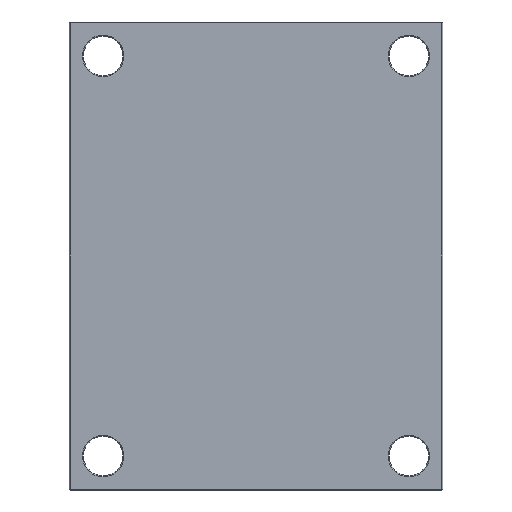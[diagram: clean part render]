
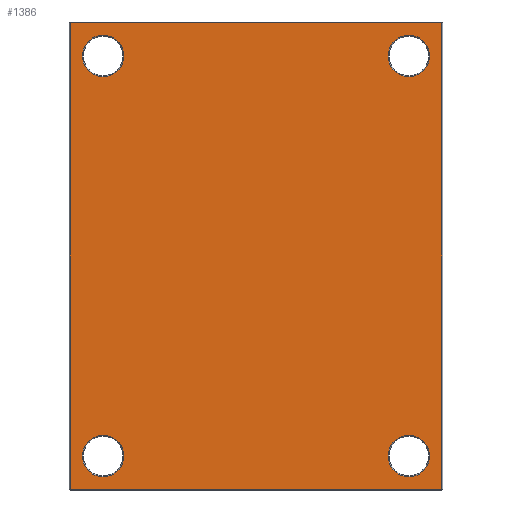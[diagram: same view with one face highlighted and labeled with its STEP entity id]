
A CAD part, front view. The second image highlights one B-rep face of the part: STEP entity #1386.
In plain terms, the highlighted planar face has unit normal (0, -1, 0).
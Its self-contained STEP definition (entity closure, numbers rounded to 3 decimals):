
#10 = CIRCLE ( 'NONE', #2101, 22. ) ;
#31 = DIRECTION ( 'NONE',  ( -1., 0., 0. ) ) ;
#37 = LINE ( 'NONE', #362, #308 ) ;
#40 = VECTOR ( 'NONE', #2070, 1000. ) ;
#47 = EDGE_LOOP ( 'NONE', ( #920, #1014 ) ) ;
#61 = EDGE_LOOP ( 'NONE', ( #1020, #1037 ) ) ;
#65 = EDGE_CURVE ( 'NONE', #1095, #1932, #1212, .T. ) ;
#73 = DIRECTION ( 'NONE',  ( 0., 1., 0. ) ) ;
#80 = CARTESIAN_POINT ( 'NONE',  ( -162., 0., 212. ) ) ;
#112 = EDGE_CURVE ( 'NONE', #125, #1172, #990, .T. ) ;
#116 = CIRCLE ( 'NONE', #2072, 22. ) ;
#125 = VERTEX_POINT ( 'NONE', #630 ) ;
#134 = CARTESIAN_POINT ( 'NONE',  ( 162., 0., -190. ) ) ;
#135 = CARTESIAN_POINT ( 'NONE',  ( -162., 0., -212. ) ) ;
#145 = DIRECTION ( 'NONE',  ( 0., 1., 0. ) ) ;
#151 = DIRECTION ( 'NONE',  ( 0., 0., 1. ) ) ;
#169 = LINE ( 'NONE', #2140, #256 ) ;
#194 = LINE ( 'NONE', #573, #221 ) ;
#200 = EDGE_CURVE ( 'NONE', #1406, #1710, #807, .T. ) ;
#221 = VECTOR ( 'NONE', #621, 1000. ) ;
#229 = CIRCLE ( 'NONE', #244, 22. ) ;
#244 = AXIS2_PLACEMENT_3D ( 'NONE', #2003, #2011, #2019 ) ;
#256 = VECTOR ( 'NONE', #31, 1000. ) ;
#289 = EDGE_CURVE ( 'NONE', #2172, #1986, #402, .T. ) ;
#308 = VECTOR ( 'NONE', #506, 1000. ) ;
#346 = LINE ( 'NONE', #2045, #40 ) ;
#362 = CARTESIAN_POINT ( 'NONE',  ( -197., 0., 0. ) ) ;
#363 = CIRCLE ( 'NONE', #2107, 22. ) ;
#374 = CARTESIAN_POINT ( 'NONE',  ( -197., 0., -247. ) ) ;
#402 = CIRCLE ( 'NONE', #2137, 22. ) ;
#442 = DIRECTION ( 'NONE',  ( 0., 1., 0. ) ) ;
#444 = VERTEX_POINT ( 'NONE', #1245 ) ;
#491 = DIRECTION ( 'NONE',  ( 0., 0., 1. ) ) ;
#506 = DIRECTION ( 'NONE',  ( 0., 0., -1. ) ) ;
#542 = EDGE_CURVE ( 'NONE', #1986, #2172, #116, .T. ) ;
#548 = EDGE_CURVE ( 'NONE', #1710, #1406, #363, .T. ) ;
#552 = EDGE_CURVE ( 'NONE', #1172, #125, #229, .T. ) ;
#559 = EDGE_CURVE ( 'NONE', #1932, #1095, #10, .T. ) ;
#566 = EDGE_CURVE ( 'NONE', #444, #2109, #346, .T. ) ;
#573 = CARTESIAN_POINT ( 'NONE',  ( 0., 0., -247. ) ) ;
#574 = PLANE ( 'NONE',  #1465 ) ;
#579 = EDGE_CURVE ( 'NONE', #2109, #689, #169, .T. ) ;
#603 = EDGE_CURVE ( 'NONE', #689, #2018, #37, .T. ) ;
#608 = EDGE_CURVE ( 'NONE', #2018, #444, #194, .T. ) ;
#621 = DIRECTION ( 'NONE',  ( 1., 0., 0. ) ) ;
#629 = CARTESIAN_POINT ( 'NONE',  ( 0., 0., 0. ) ) ;
#630 = CARTESIAN_POINT ( 'NONE',  ( 162., 0., 190. ) ) ;
#644 = DIRECTION ( 'NONE',  ( 0., 0., 1. ) ) ;
#689 = VERTEX_POINT ( 'NONE', #1602 ) ;
#694 = FACE_OUTER_BOUND ( 'NONE', #1466, .T. ) ;
#720 = FACE_BOUND ( 'NONE', #917, .T. ) ;
#752 = CARTESIAN_POINT ( 'NONE',  ( 162., 0., 212. ) ) ;
#754 = DIRECTION ( 'NONE',  ( 0., 1., 0. ) ) ;
#759 = DIRECTION ( 'NONE',  ( 0., 0., 1. ) ) ;
#761 = FACE_BOUND ( 'NONE', #61, .T. ) ;
#762 = FACE_BOUND ( 'NONE', #1280, .T. ) ;
#807 = CIRCLE ( 'NONE', #1529, 22. ) ;
#855 = CARTESIAN_POINT ( 'NONE',  ( -162., 0., 234. ) ) ;
#883 = FACE_BOUND ( 'NONE', #47, .T. ) ;
#917 = EDGE_LOOP ( 'NONE', ( #1062, #1114 ) ) ;
#920 = ORIENTED_EDGE ( 'NONE', *, *, #289, .T. ) ;
#990 = CIRCLE ( 'NONE', #1767, 22. ) ;
#1014 = ORIENTED_EDGE ( 'NONE', *, *, #542, .T. ) ;
#1020 = ORIENTED_EDGE ( 'NONE', *, *, #200, .T. ) ;
#1037 = ORIENTED_EDGE ( 'NONE', *, *, #548, .T. ) ;
#1062 = ORIENTED_EDGE ( 'NONE', *, *, #112, .T. ) ;
#1075 = CARTESIAN_POINT ( 'NONE',  ( -162., 0., 190. ) ) ;
#1077 = CARTESIAN_POINT ( 'NONE',  ( 162., 0., -234. ) ) ;
#1095 = VERTEX_POINT ( 'NONE', #1075 ) ;
#1114 = ORIENTED_EDGE ( 'NONE', *, *, #552, .T. ) ;
#1122 = ORIENTED_EDGE ( 'NONE', *, *, #65, .T. ) ;
#1125 = ORIENTED_EDGE ( 'NONE', *, *, #559, .T. ) ;
#1126 = CARTESIAN_POINT ( 'NONE',  ( 162., 0., 234. ) ) ;
#1170 = ORIENTED_EDGE ( 'NONE', *, *, #566, .T. ) ;
#1172 = VERTEX_POINT ( 'NONE', #1126 ) ;
#1193 = ORIENTED_EDGE ( 'NONE', *, *, #579, .T. ) ;
#1198 = ORIENTED_EDGE ( 'NONE', *, *, #603, .T. ) ;
#1212 = CIRCLE ( 'NONE', #1995, 22. ) ;
#1213 = ORIENTED_EDGE ( 'NONE', *, *, #608, .T. ) ;
#1245 = CARTESIAN_POINT ( 'NONE',  ( 197., 0., -247. ) ) ;
#1280 = EDGE_LOOP ( 'NONE', ( #1122, #1125 ) ) ;
#1326 = CARTESIAN_POINT ( 'NONE',  ( -162., 0., -234. ) ) ;
#1348 = CARTESIAN_POINT ( 'NONE',  ( 162., 0., -212. ) ) ;
#1356 = DIRECTION ( 'NONE',  ( 0., 1., 0. ) ) ;
#1386 = ADVANCED_FACE ( 'NONE', ( #883, #761, #720, #762, #694 ), #574, .F. ) ;
#1390 = DIRECTION ( 'NONE',  ( 0., 0., 1. ) ) ;
#1406 = VERTEX_POINT ( 'NONE', #1077 ) ;
#1465 = AXIS2_PLACEMENT_3D ( 'NONE', #629, #442, #644 ) ;
#1466 = EDGE_LOOP ( 'NONE', ( #1170, #1193, #1198, #1213 ) ) ;
#1529 = AXIS2_PLACEMENT_3D ( 'NONE', #1348, #1356, #1390 ) ;
#1602 = CARTESIAN_POINT ( 'NONE',  ( -197., 0., 247. ) ) ;
#1710 = VERTEX_POINT ( 'NONE', #134 ) ;
#1749 = CARTESIAN_POINT ( 'NONE',  ( 197., 0., 247. ) ) ;
#1767 = AXIS2_PLACEMENT_3D ( 'NONE', #752, #754, #759 ) ;
#1855 = CARTESIAN_POINT ( 'NONE',  ( -162., 0., -212. ) ) ;
#1865 = DIRECTION ( 'NONE',  ( 0., 1., 0. ) ) ;
#1874 = DIRECTION ( 'NONE',  ( 0., 0., 1. ) ) ;
#1879 = CARTESIAN_POINT ( 'NONE',  ( -162., 0., -190. ) ) ;
#1903 = CARTESIAN_POINT ( 'NONE',  ( 162., 0., -212. ) ) ;
#1913 = DIRECTION ( 'NONE',  ( 0., 1., 0. ) ) ;
#1931 = DIRECTION ( 'NONE',  ( 0., 0., 1. ) ) ;
#1932 = VERTEX_POINT ( 'NONE', #855 ) ;
#1986 = VERTEX_POINT ( 'NONE', #1879 ) ;
#1995 = AXIS2_PLACEMENT_3D ( 'NONE', #80, #73, #491 ) ;
#2003 = CARTESIAN_POINT ( 'NONE',  ( 162., 0., 212. ) ) ;
#2011 = DIRECTION ( 'NONE',  ( 0., 1., 0. ) ) ;
#2018 = VERTEX_POINT ( 'NONE', #374 ) ;
#2019 = DIRECTION ( 'NONE',  ( 0., 0., 1. ) ) ;
#2045 = CARTESIAN_POINT ( 'NONE',  ( 197., 0., 0. ) ) ;
#2070 = DIRECTION ( 'NONE',  ( 0., 0., 1. ) ) ;
#2072 = AXIS2_PLACEMENT_3D ( 'NONE', #1855, #1865, #1874 ) ;
#2078 = CARTESIAN_POINT ( 'NONE',  ( -162., 0., 212. ) ) ;
#2083 = DIRECTION ( 'NONE',  ( 0., 1., 0. ) ) ;
#2087 = DIRECTION ( 'NONE',  ( 0., 0., 1. ) ) ;
#2101 = AXIS2_PLACEMENT_3D ( 'NONE', #2078, #2083, #2087 ) ;
#2107 = AXIS2_PLACEMENT_3D ( 'NONE', #1903, #1913, #1931 ) ;
#2109 = VERTEX_POINT ( 'NONE', #1749 ) ;
#2137 = AXIS2_PLACEMENT_3D ( 'NONE', #135, #145, #151 ) ;
#2140 = CARTESIAN_POINT ( 'NONE',  ( 0., 0., 247. ) ) ;
#2172 = VERTEX_POINT ( 'NONE', #1326 ) ;
